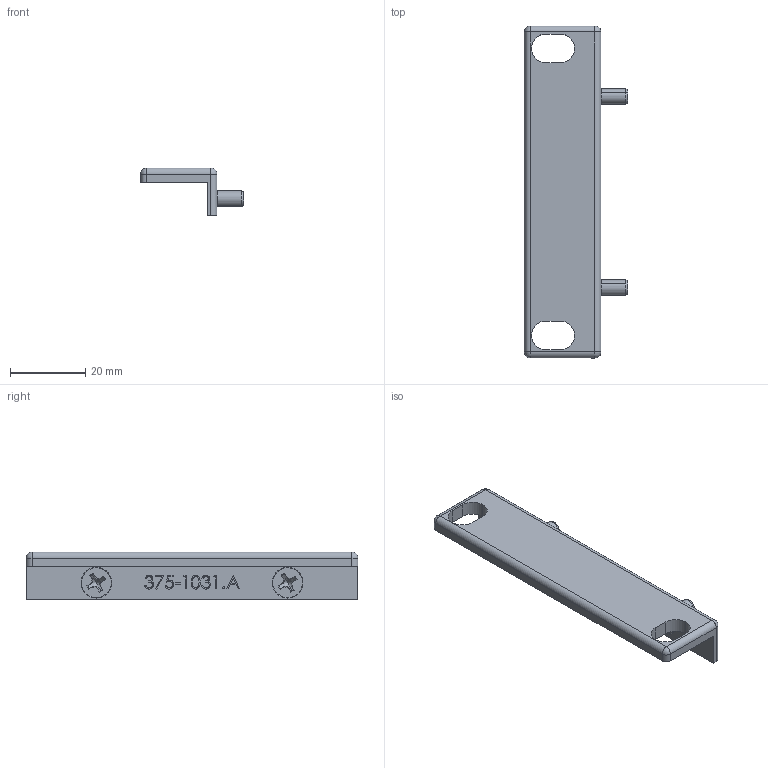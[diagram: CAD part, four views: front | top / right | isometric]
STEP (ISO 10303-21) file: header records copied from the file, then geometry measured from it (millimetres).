
FILE_DESCRIPTION (( 'STEP AP214' ), '1' );
FILE_NAME ('1401-RM-1, part 1 of 2b.STEP', '2019-11-18T18:28:21', ( '' ), ( '' ), 'SwSTEP 2.0', 'SolidWorks 2018', '' );
FILE_SCHEMA (( 'AUTOMOTIVE_DESIGN' ));
Length unit declared in the file: inch
Products named in the file (1): 1401-RM-1, part 1 of 2b
Bounding box: 27.42 x 88.14 x 12.7 mm (x, y, z)
Volume: 8246.6 mm3; surface area: 6296.2 mm2
Topology: 3 solids, 3 shells, 208 faces, 546 edges, 352 vertices
Faces by surface type: plane 107, bspline 49, cone 26, cylinder 22, sphere 4
Entity records: 11416 total; most frequent: CARTESIAN_POINT 4324, ORIENTED_EDGE 1076, DIRECTION 794, EDGE_CURVE 538, VERTEX_POINT 352, VECTOR 310, LINE 310, AXIS2_PLACEMENT_3D 242
